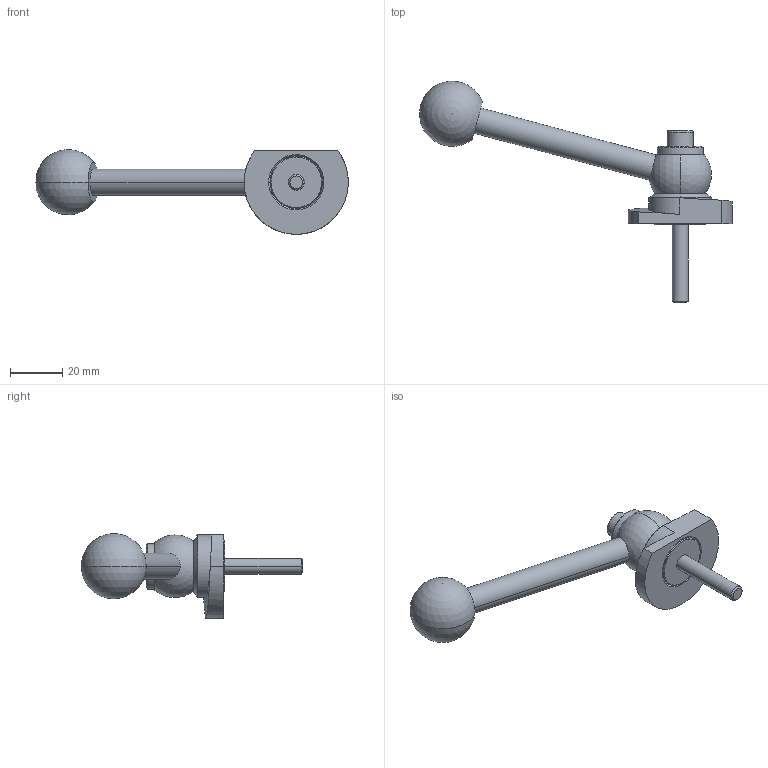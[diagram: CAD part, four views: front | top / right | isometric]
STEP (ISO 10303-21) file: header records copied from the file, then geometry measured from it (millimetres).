
FILE_DESCRIPTION (( 'STEP AP214' ), '1' );
FILE_NAME ('918.1-40-KVS-L-30.step', '2024-05-15T13:00:04', ( '' ), ( '' ), 'SwSTEP 2.0', 'SolidWorks 2022', '' );
FILE_SCHEMA (( 'AUTOMOTIVE_DESIGN' ));
Length unit declared in the file: millimetre
Products named in the file (1): 918.1-40-KVS-L-30
Bounding box: 119.95 x 84.99 x 32.5 mm (x, y, z)
Volume: 30598.5 mm3; surface area: 11401.5 mm2
Topology: 1 solids, 1 shells, 62 faces, 141 edges, 89 vertices
Faces by surface type: plane 20, cylinder 19, cone 14, sphere 4, bspline 3, torus 2
Entity records: 2003 total; most frequent: CARTESIAN_POINT 614, DIRECTION 304, ORIENTED_EDGE 262, EDGE_CURVE 131, AXIS2_PLACEMENT_3D 125, VERTEX_POINT 83, EDGE_LOOP 74, CIRCLE 65
